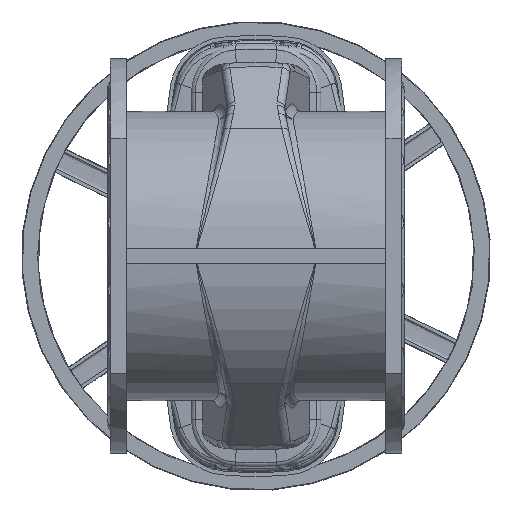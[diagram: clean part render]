
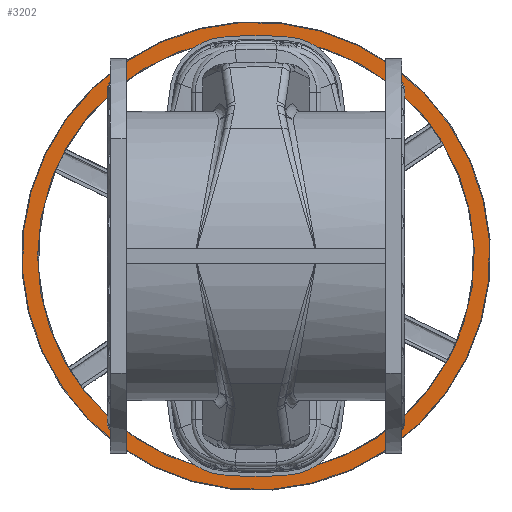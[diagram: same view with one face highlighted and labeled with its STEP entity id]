
A CAD part, front view. The second image highlights one B-rep face of the part: STEP entity #3202.
In plain terms, the highlighted planar face has unit normal (0, -1, 0).
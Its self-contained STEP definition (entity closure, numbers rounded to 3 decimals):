
#2244 = ORIENTED_EDGE ( 'NONE', *, *, #16959, .F. ) ;
#2245 = ORIENTED_EDGE ( 'NONE', *, *, #16960, .F. ) ;
#3202 = ADVANCED_FACE ( 'NONE', ( #15915, #15907 ), #25428, .F. ) ;
#4119 = VERTEX_POINT ( 'NONE', #43205 ) ;
#4120 = VERTEX_POINT ( 'NONE', #43206 ) ;
#4533 = CIRCLE ( 'NONE', #30799, 299.116 ) ;
#4534 = CIRCLE ( 'NONE', #30800, 279.221 ) ;
#15907 = FACE_BOUND ( 'NONE', #45624, .T. ) ;
#15915 = FACE_OUTER_BOUND ( 'NONE', #45616, .T. ) ;
#16959 = EDGE_CURVE ( 'NONE', #4119, #4119, #4533, .T. ) ;
#16960 = EDGE_CURVE ( 'NONE', #4120, #4120, #4534, .T. ) ;
#25423 = CARTESIAN_POINT ( 'NONE',  ( 265.297, 1209., -129.27 ) ) ;
#25428 = PLANE ( 'NONE',  #45235 ) ;
#25432 = DIRECTION ( 'NONE',  ( 0., 1., 0. ) ) ;
#25434 = DIRECTION ( 'NONE',  ( -0.899, 0., 0.438 ) ) ;
#27259 = CARTESIAN_POINT ( 'NONE',  ( 0., 1209., 0. ) ) ;
#27260 = DIRECTION ( 'NONE',  ( 0., 1., 0. ) ) ;
#27261 = DIRECTION ( 'NONE',  ( -0.899, 0., 0.438 ) ) ;
#27263 = CARTESIAN_POINT ( 'NONE',  ( 0., 1209., 0. ) ) ;
#27264 = DIRECTION ( 'NONE',  ( 0., -1., 0. ) ) ;
#27265 = DIRECTION ( 'NONE',  ( -1., 0., 0. ) ) ;
#30799 = AXIS2_PLACEMENT_3D ( 'NONE', #27259, #27260, #27261 ) ;
#30800 = AXIS2_PLACEMENT_3D ( 'NONE', #27263, #27264, #27265 ) ;
#43205 = CARTESIAN_POINT ( 'NONE',  ( -268.893, 1209., 131.022 ) ) ;
#43206 = CARTESIAN_POINT ( 'NONE',  ( -279.221, 1209., 0. ) ) ;
#45235 = AXIS2_PLACEMENT_3D ( 'NONE', #25423, #25432, #25434 ) ;
#45616 = EDGE_LOOP ( 'NONE', ( #2244 ) ) ;
#45624 = EDGE_LOOP ( 'NONE', ( #2245 ) ) ;
